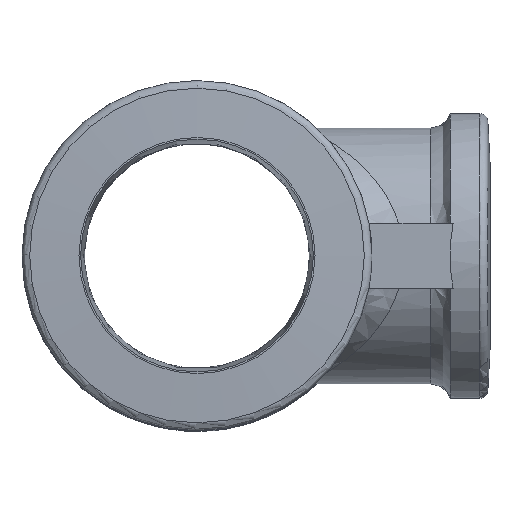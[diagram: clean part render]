
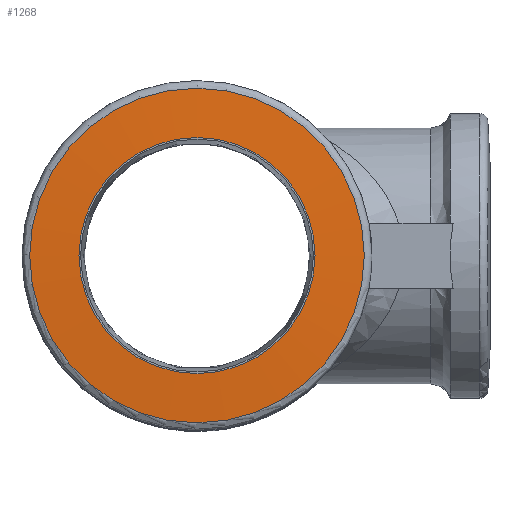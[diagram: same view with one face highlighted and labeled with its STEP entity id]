
A CAD part, top view. The second image highlights one B-rep face of the part: STEP entity #1268.
In plain terms, the highlighted conical face has half-angle 87 degrees and reference radius 18 mm.
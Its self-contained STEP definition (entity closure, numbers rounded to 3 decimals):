
#1237=CARTESIAN_POINT('',(20.552,0.,34.683));
#1238=VERTEX_POINT('',#1237);
#1239=CARTESIAN_POINT('',(0.0,0.,34.683));
#1240=DIRECTION('',(0.0,0.0,-1.0));
#1241=DIRECTION('',(-1.0,0.0,0.0));
#1242=AXIS2_PLACEMENT_3D('',#1239,#1240,#1241);
#1243=CIRCLE('',#1242,20.552);
#1244=EDGE_CURVE('',#1238,#1238,#1243,.T.);
#1249=CARTESIAN_POINT('',(0.0,0.0,34.817));
#1250=DIRECTION('',(0.0,0.0,-1.0));
#1251=DIRECTION('',(-1.0,0.0,0.0));
#1252=AXIS2_PLACEMENT_3D('',#1249,#1250,#1251);
#1253=CONICAL_SURFACE('',#1252,18.0,87.);
#1254=CARTESIAN_POINT('',(14.5,0.,35.0));
#1255=VERTEX_POINT('',#1254);
#1256=CARTESIAN_POINT('',(0.0,0.0,35.0));
#1257=DIRECTION('',(0.0,0.0,-1.0));
#1258=DIRECTION('',(-1.0,0.0,0.0));
#1259=AXIS2_PLACEMENT_3D('',#1256,#1257,#1258);
#1260=CIRCLE('',#1259,14.5);
#1261=EDGE_CURVE('',#1255,#1255,#1260,.T.);
#1262=ORIENTED_EDGE('',*,*,#1261,.T.);
#1263=EDGE_LOOP('',(#1262));
#1264=FACE_OUTER_BOUND('',#1263,.T.);
#1265=ORIENTED_EDGE('',*,*,#1244,.F.);
#1266=EDGE_LOOP('',(#1265));
#1267=FACE_BOUND('',#1266,.T.);
#1268=ADVANCED_FACE('',(#1264,#1267),#1253,.T.);
